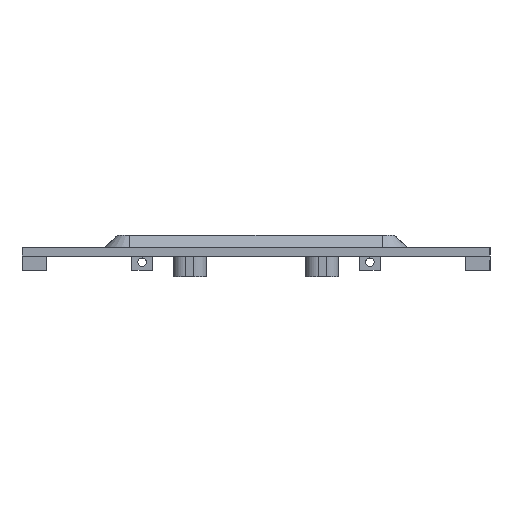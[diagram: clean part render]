
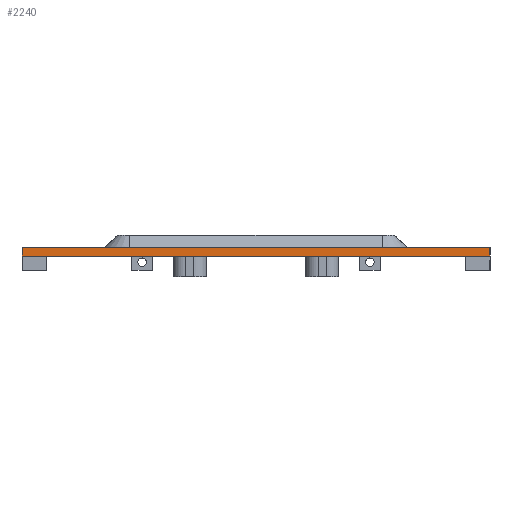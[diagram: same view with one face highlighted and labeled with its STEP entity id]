
A CAD part, left-side view. The second image highlights one B-rep face of the part: STEP entity #2240.
In plain terms, the highlighted planar face has unit normal (-1, 0, 0).
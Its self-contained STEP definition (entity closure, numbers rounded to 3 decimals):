
#45 = VECTOR ( 'NONE', #7601, 1000. ) ;
#271 = LINE ( 'NONE', #1327, #6450 ) ;
#485 = ORIENTED_EDGE ( 'NONE', *, *, #2243, .F. ) ;
#1048 = CARTESIAN_POINT ( 'NONE',  ( 4.443, -67.063, 214.029 ) ) ;
#1327 = CARTESIAN_POINT ( 'NONE',  ( 4.443, 49.437, 0. ) ) ;
#1785 = EDGE_LOOP ( 'NONE', ( #5464, #485, #5221, #10710 ) ) ;
#1990 = CARTESIAN_POINT ( 'NONE',  ( 4.443, 49.437, 2. ) ) ;
#2240 = ADVANCED_FACE ( 'NONE', ( #2804 ), #3856, .F. ) ;
#2243 = EDGE_CURVE ( 'NONE', #2661, #11907, #6060, .T. ) ;
#2375 = CARTESIAN_POINT ( 'NONE',  ( 4.443, -67.063, 0. ) ) ;
#2499 = LINE ( 'NONE', #7781, #4394 ) ;
#2661 = VERTEX_POINT ( 'NONE', #11350 ) ;
#2804 = FACE_OUTER_BOUND ( 'NONE', #1785, .T. ) ;
#2943 = DIRECTION ( 'NONE',  ( 0., 1., 0. ) ) ;
#3503 = AXIS2_PLACEMENT_3D ( 'NONE', #3821, #11476, #2943 ) ;
#3806 = CARTESIAN_POINT ( 'NONE',  ( 4.443, 45.937, 0. ) ) ;
#3821 = CARTESIAN_POINT ( 'NONE',  ( 4.443, 49.437, 2. ) ) ;
#3856 = PLANE ( 'NONE',  #3503 ) ;
#4394 = VECTOR ( 'NONE', #8740, 1000. ) ;
#4770 = EDGE_CURVE ( 'NONE', #5475, #6407, #2499, .T. ) ;
#5221 = ORIENTED_EDGE ( 'NONE', *, *, #7300, .F. ) ;
#5464 = ORIENTED_EDGE ( 'NONE', *, *, #5748, .T. ) ;
#5475 = VERTEX_POINT ( 'NONE', #8531 ) ;
#5748 = EDGE_CURVE ( 'NONE', #6407, #11907, #271, .T. ) ;
#6060 = LINE ( 'NONE', #1048, #45 ) ;
#6292 = VECTOR ( 'NONE', #8556, 1000. ) ;
#6407 = VERTEX_POINT ( 'NONE', #3806 ) ;
#6450 = VECTOR ( 'NONE', #6814, 1000. ) ;
#6814 = DIRECTION ( 'NONE',  ( 0., -1., 0. ) ) ;
#7300 = EDGE_CURVE ( 'NONE', #5475, #2661, #8479, .T. ) ;
#7601 = DIRECTION ( 'NONE',  ( 0., 0., -1. ) ) ;
#7781 = CARTESIAN_POINT ( 'NONE',  ( 4.443, 45.937, 214.029 ) ) ;
#8479 = LINE ( 'NONE', #1990, #6292 ) ;
#8531 = CARTESIAN_POINT ( 'NONE',  ( 4.443, 45.937, 2. ) ) ;
#8556 = DIRECTION ( 'NONE',  ( 0., -1., 0. ) ) ;
#8740 = DIRECTION ( 'NONE',  ( 0., 0., -1. ) ) ;
#10710 = ORIENTED_EDGE ( 'NONE', *, *, #4770, .T. ) ;
#11350 = CARTESIAN_POINT ( 'NONE',  ( 4.443, -67.063, 2. ) ) ;
#11476 = DIRECTION ( 'NONE',  ( 1., 0., 0. ) ) ;
#11907 = VERTEX_POINT ( 'NONE', #2375 ) ;
